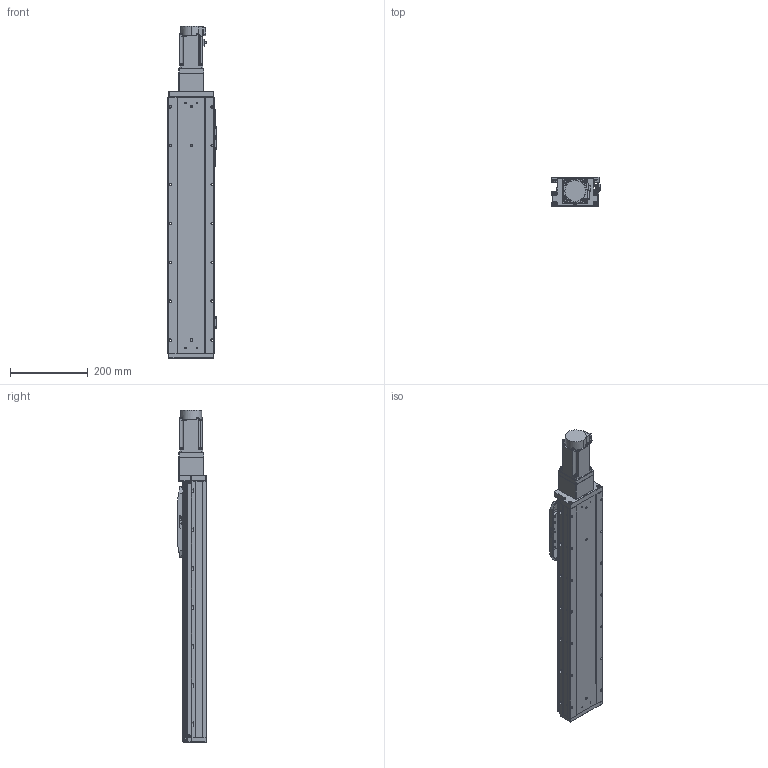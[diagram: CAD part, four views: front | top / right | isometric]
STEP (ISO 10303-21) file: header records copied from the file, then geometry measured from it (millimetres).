
FILE_DESCRIPTION (( 'STEP AP203' ), '1' );
FILE_NAME ('GTH12-450-BC-M40-C4.step', '2022-09-23T01:14:38', ( '微软用户' ), ( '微软中国' ), 'SwSTEP 2.0', 'SolidWorks 2020', '' );
FILE_SCHEMA (( 'CONFIG_CONTROL_DESIGN' ));
Length unit declared in the file: millimetre
Products named in the file (19): GTH80-022; CTHA86-013; GTH120-006; GTH80-028; CTHA86-027; GTH120-004; GTH50-023; hg-kn43j_-s100_; GTH120-013; GTH50-024; GTH12-450-BC-M40-C4; GBT 70.1-M3℅6; GBT96.1-2002 3×0.8; GBT 70.1-M5×16; BTH-M3X5X6; GTH120-001_450; GBT 70.3-M3℅8; CTHA86-006-1_CTHA86-006-2; GTH120-003
Assembly tree (62 placements, depth 2):
  GTH12-450-BC-M40-C4
    GTH120-001_450
    GTH120-003
    GTH120-006
    GTH120-004
    GTH120-013
    GBT 70.1-M3℅6  x14
    GBT 70.1-M5×16  x10
    GBT 70.3-M3℅8  x6
    GTH80-022
    GTH80-028  x2
    GTH50-023  x3
    GTH50-024  x3
    GBT96.1-2002 3×0.8  x6
    BTH-M3X5X6  x8
    CTHA86-006-1_CTHA86-006-2
    CTHA86-013
    CTHA86-027
    hg-kn43j_-s100_
Bounding box: 125.7 x 76 x 853.7 mm (x, y, z)
Volume: 5378750.8 mm3; surface area: 528992.8 mm2
Topology: 64 solids, 64 shells, 2418 faces, 5591 edges, 3405 vertices
Faces by surface type: plane 1240, cylinder 677, cone 323, torus 170, sphere 8
Entity records: 42860 total; most frequent: DIRECTION 7145, CARTESIAN_POINT 6862, ORIENTED_EDGE 6564, EDGE_CURVE 3282, AXIS2_PLACEMENT_3D 2497, VECTOR 2151, LINE 2151, VERTEX_POINT 2064
